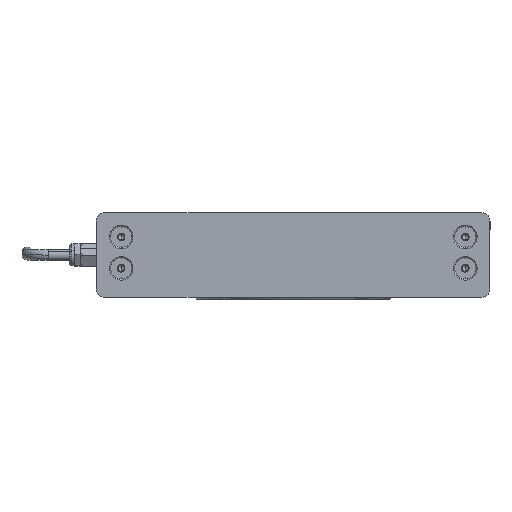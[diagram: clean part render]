
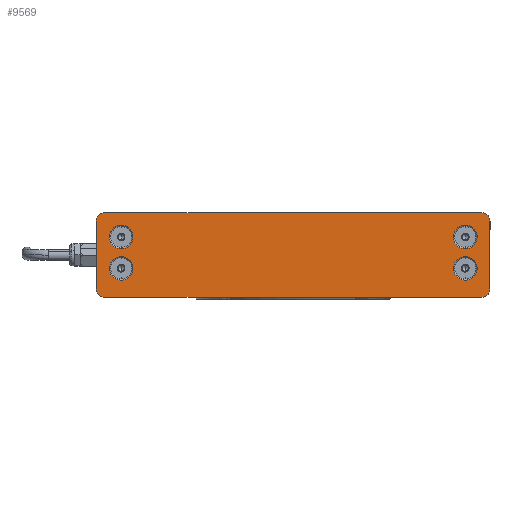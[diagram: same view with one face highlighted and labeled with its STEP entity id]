
A CAD part, left-side view. The second image highlights one B-rep face of the part: STEP entity #9569.
In plain terms, the highlighted planar face has unit normal (-1, 0, 0) as drawn and (0, 0, -1) by its records, which use the part's own axes.
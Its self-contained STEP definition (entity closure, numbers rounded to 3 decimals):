
#131 = EDGE_CURVE ( 'NONE', #16238, #3221, #17956, .T. ) ;
#266 = LINE ( 'NONE', #24265, #7904 ) ;
#683 = VERTEX_POINT ( 'NONE', #25800 ) ;
#707 = DIRECTION ( 'NONE',  ( 0., 0., -1. ) ) ;
#834 = CARTESIAN_POINT ( 'NONE',  ( 75.7, 8.5, 0. ) ) ;
#873 = CIRCLE ( 'NONE', #23498, 4. ) ;
#1232 = AXIS2_PLACEMENT_3D ( 'NONE', #11190, #19191, #1246 ) ;
#1246 = DIRECTION ( 'NONE',  ( -1., 0., 0. ) ) ;
#1478 = EDGE_CURVE ( 'NONE', #10969, #8473, #266, .T. ) ;
#1742 = LINE ( 'NONE', #23887, #20136 ) ;
#1770 = CARTESIAN_POINT ( 'NONE',  ( -81.3, -6.3, 0. ) ) ;
#1856 = CARTESIAN_POINT ( 'NONE',  ( 81.3, -6.3, 0. ) ) ;
#1952 = DIRECTION ( 'NONE',  ( -1., 0., 0. ) ) ;
#2318 = DIRECTION ( 'NONE',  ( -1., 0., 0. ) ) ;
#2404 = FACE_BOUND ( 'NONE', #24069, .T. ) ;
#2476 = DIRECTION ( 'NONE',  ( 0., 0., -1. ) ) ;
#2893 = DIRECTION ( 'NONE',  ( -1., 0., 0. ) ) ;
#3221 = VERTEX_POINT ( 'NONE', #22098 ) ;
#3506 = EDGE_CURVE ( 'NONE', #22330, #12350, #873, .T. ) ;
#3580 = DIRECTION ( 'NONE',  ( 0., 0., -1. ) ) ;
#3744 = CARTESIAN_POINT ( 'NONE',  ( -86.9, 8.5, 0. ) ) ;
#3844 = EDGE_CURVE ( 'NONE', #3221, #16238, #23512, .T. ) ;
#4114 = FACE_OUTER_BOUND ( 'NONE', #18024, .T. ) ;
#4115 = CARTESIAN_POINT ( 'NONE',  ( 89., -20., 0. ) ) ;
#4144 = CIRCLE ( 'NONE', #25063, 5.6 ) ;
#4372 = FACE_BOUND ( 'NONE', #19691, .T. ) ;
#4517 = DIRECTION ( 'NONE',  ( -1., 0., 0. ) ) ;
#4620 = EDGE_CURVE ( 'NONE', #14165, #9355, #7190, .T. ) ;
#4677 = CARTESIAN_POINT ( 'NONE',  ( -89., -20., 0. ) ) ;
#4750 = ORIENTED_EDGE ( 'NONE', *, *, #17627, .F. ) ;
#4803 = LINE ( 'NONE', #4677, #25772 ) ;
#5032 = DIRECTION ( 'NONE',  ( 0., 0., -1. ) ) ;
#5067 = ORIENTED_EDGE ( 'NONE', *, *, #15386, .F. ) ;
#5088 = AXIS2_PLACEMENT_3D ( 'NONE', #16316, #24211, #2318 ) ;
#5155 = ORIENTED_EDGE ( 'NONE', *, *, #4620, .F. ) ;
#5233 = ORIENTED_EDGE ( 'NONE', *, *, #14295, .F. ) ;
#5361 = ORIENTED_EDGE ( 'NONE', *, *, #131, .F. ) ;
#5404 = DIRECTION ( 'NONE',  ( -1., 0., 0. ) ) ;
#5416 = VERTEX_POINT ( 'NONE', #4115 ) ;
#5622 = ORIENTED_EDGE ( 'NONE', *, *, #3506, .F. ) ;
#5727 = CARTESIAN_POINT ( 'NONE',  ( 89., 20., 0. ) ) ;
#6259 = VERTEX_POINT ( 'NONE', #21439 ) ;
#6446 = AXIS2_PLACEMENT_3D ( 'NONE', #17562, #23604, #20140 ) ;
#6609 = CARTESIAN_POINT ( 'NONE',  ( -75.7, -6.3, 0. ) ) ;
#6666 = AXIS2_PLACEMENT_3D ( 'NONE', #10012, #14312, #16404 ) ;
#6859 = CIRCLE ( 'NONE', #6446, 4. ) ;
#6993 = CIRCLE ( 'NONE', #21660, 4. ) ;
#7190 = CIRCLE ( 'NONE', #10943, 5.6 ) ;
#7346 = DIRECTION ( 'NONE',  ( 0., 0., 1. ) ) ;
#7616 = AXIS2_PLACEMENT_3D ( 'NONE', #20822, #2476, #18186 ) ;
#7904 = VECTOR ( 'NONE', #12868, 1000. ) ;
#8147 = CARTESIAN_POINT ( 'NONE',  ( -86.9, -6.3, 0. ) ) ;
#8473 = VERTEX_POINT ( 'NONE', #9465 ) ;
#8668 = VERTEX_POINT ( 'NONE', #18735 ) ;
#8690 = DIRECTION ( 'NONE',  ( -1., 0., 0. ) ) ;
#8926 = CARTESIAN_POINT ( 'NONE',  ( -89., 16., 0. ) ) ;
#9355 = VERTEX_POINT ( 'NONE', #3744 ) ;
#9368 = CARTESIAN_POINT ( 'NONE',  ( -93., -16., 0. ) ) ;
#9465 = CARTESIAN_POINT ( 'NONE',  ( 93., 16., 0. ) ) ;
#9569 = ADVANCED_FACE ( 'NONE', ( #14441, #2404, #4372, #15886, #4114 ), #10390, .T. ) ;
#10012 = CARTESIAN_POINT ( 'NONE',  ( 89., 16., 0. ) ) ;
#10390 = PLANE ( 'NONE',  #6666 ) ;
#10936 = CARTESIAN_POINT ( 'NONE',  ( -93., -16., 0. ) ) ;
#10943 = AXIS2_PLACEMENT_3D ( 'NONE', #24350, #14119, #1952 ) ;
#10969 = VERTEX_POINT ( 'NONE', #23717 ) ;
#11020 = CIRCLE ( 'NONE', #17288, 5.6 ) ;
#11190 = CARTESIAN_POINT ( 'NONE',  ( 81.3, 8.5, 0. ) ) ;
#11460 = LINE ( 'NONE', #9368, #18754 ) ;
#12165 = EDGE_CURVE ( 'NONE', #8668, #683, #6993, .T. ) ;
#12350 = VERTEX_POINT ( 'NONE', #20532 ) ;
#12386 = ORIENTED_EDGE ( 'NONE', *, *, #12165, .F. ) ;
#12623 = DIRECTION ( 'NONE',  ( 1., 0., 0. ) ) ;
#12643 = VERTEX_POINT ( 'NONE', #6609 ) ;
#12686 = EDGE_CURVE ( 'NONE', #5416, #10969, #23349, .T. ) ;
#12794 = CARTESIAN_POINT ( 'NONE',  ( 86.9, -6.3, 0. ) ) ;
#12866 = CARTESIAN_POINT ( 'NONE',  ( -81.3, 8.5, 0. ) ) ;
#12868 = DIRECTION ( 'NONE',  ( 0., 1., 0. ) ) ;
#12892 = VERTEX_POINT ( 'NONE', #12794 ) ;
#13154 = AXIS2_PLACEMENT_3D ( 'NONE', #12866, #5032, #8690 ) ;
#13413 = ORIENTED_EDGE ( 'NONE', *, *, #12686, .F. ) ;
#13437 = DIRECTION ( 'NONE',  ( -1., 0., 0. ) ) ;
#13884 = ORIENTED_EDGE ( 'NONE', *, *, #19077, .F. ) ;
#14119 = DIRECTION ( 'NONE',  ( 0., 0., -1. ) ) ;
#14165 = VERTEX_POINT ( 'NONE', #19189 ) ;
#14295 = EDGE_CURVE ( 'NONE', #683, #22330, #11460, .T. ) ;
#14312 = DIRECTION ( 'NONE',  ( 0., 0., -1. ) ) ;
#14441 = FACE_BOUND ( 'NONE', #19475, .T. ) ;
#14828 = CIRCLE ( 'NONE', #13154, 5.6 ) ;
#15114 = CIRCLE ( 'NONE', #7616, 5.6 ) ;
#15138 = AXIS2_PLACEMENT_3D ( 'NONE', #1770, #15896, #13437 ) ;
#15386 = EDGE_CURVE ( 'NONE', #6259, #12892, #4144, .T. ) ;
#15563 = CIRCLE ( 'NONE', #15138, 5.6 ) ;
#15652 = ORIENTED_EDGE ( 'NONE', *, *, #16992, .F. ) ;
#15886 = FACE_BOUND ( 'NONE', #21390, .T. ) ;
#15896 = DIRECTION ( 'NONE',  ( 0., 0., -1. ) ) ;
#16238 = VERTEX_POINT ( 'NONE', #834 ) ;
#16316 = CARTESIAN_POINT ( 'NONE',  ( 81.3, 8.5, 0. ) ) ;
#16404 = DIRECTION ( 'NONE',  ( -1., 0., 0. ) ) ;
#16512 = EDGE_CURVE ( 'NONE', #25021, #8668, #1742, .T. ) ;
#16538 = DIRECTION ( 'NONE',  ( 0., 0., 1. ) ) ;
#16541 = CARTESIAN_POINT ( 'NONE',  ( 81.3, -6.3, 0. ) ) ;
#16769 = ORIENTED_EDGE ( 'NONE', *, *, #18596, .F. ) ;
#16992 = EDGE_CURVE ( 'NONE', #12643, #25540, #15114, .T. ) ;
#17288 = AXIS2_PLACEMENT_3D ( 'NONE', #16541, #707, #4517 ) ;
#17562 = CARTESIAN_POINT ( 'NONE',  ( 89., 16., 0. ) ) ;
#17627 = EDGE_CURVE ( 'NONE', #25540, #12643, #15563, .T. ) ;
#17956 = CIRCLE ( 'NONE', #1232, 5.6 ) ;
#18024 = EDGE_LOOP ( 'NONE', ( #13884, #19462, #13413, #23055, #5622, #5233, #12386, #23622 ) ) ;
#18186 = DIRECTION ( 'NONE',  ( -1., 0., 0. ) ) ;
#18251 = CARTESIAN_POINT ( 'NONE',  ( 89., -16., 0. ) ) ;
#18596 = EDGE_CURVE ( 'NONE', #12892, #6259, #11020, .T. ) ;
#18732 = AXIS2_PLACEMENT_3D ( 'NONE', #18251, #16538, #12623 ) ;
#18735 = CARTESIAN_POINT ( 'NONE',  ( -89., 20., 0. ) ) ;
#18750 = DIRECTION ( 'NONE',  ( 0., 0., 1. ) ) ;
#18754 = VECTOR ( 'NONE', #25347, 1000. ) ;
#19077 = EDGE_CURVE ( 'NONE', #8473, #25021, #6859, .T. ) ;
#19189 = CARTESIAN_POINT ( 'NONE',  ( -75.7, 8.5, 0. ) ) ;
#19191 = DIRECTION ( 'NONE',  ( 0., 0., -1. ) ) ;
#19462 = ORIENTED_EDGE ( 'NONE', *, *, #1478, .F. ) ;
#19475 = EDGE_LOOP ( 'NONE', ( #5361, #20123 ) ) ;
#19691 = EDGE_LOOP ( 'NONE', ( #24560, #5155 ) ) ;
#19938 = DIRECTION ( 'NONE',  ( -1., 0., 0. ) ) ;
#20123 = ORIENTED_EDGE ( 'NONE', *, *, #3844, .F. ) ;
#20136 = VECTOR ( 'NONE', #19938, 1000. ) ;
#20140 = DIRECTION ( 'NONE',  ( -1., 0., 0. ) ) ;
#20532 = CARTESIAN_POINT ( 'NONE',  ( -89., -20., 0. ) ) ;
#20822 = CARTESIAN_POINT ( 'NONE',  ( -81.3, -6.3, 0. ) ) ;
#21390 = EDGE_LOOP ( 'NONE', ( #4750, #15652 ) ) ;
#21401 = DIRECTION ( 'NONE',  ( -1., 0., 0. ) ) ;
#21439 = CARTESIAN_POINT ( 'NONE',  ( 75.7, -6.3, 0. ) ) ;
#21660 = AXIS2_PLACEMENT_3D ( 'NONE', #8926, #18750, #2893 ) ;
#22098 = CARTESIAN_POINT ( 'NONE',  ( 86.9, 8.5, 0. ) ) ;
#22330 = VERTEX_POINT ( 'NONE', #10936 ) ;
#22636 = DIRECTION ( 'NONE',  ( 1., 0., 0. ) ) ;
#22672 = EDGE_CURVE ( 'NONE', #9355, #14165, #14828, .T. ) ;
#23055 = ORIENTED_EDGE ( 'NONE', *, *, #23856, .F. ) ;
#23349 = CIRCLE ( 'NONE', #18732, 4. ) ;
#23498 = AXIS2_PLACEMENT_3D ( 'NONE', #25171, #7346, #5404 ) ;
#23512 = CIRCLE ( 'NONE', #5088, 5.6 ) ;
#23604 = DIRECTION ( 'NONE',  ( 0., 0., 1. ) ) ;
#23622 = ORIENTED_EDGE ( 'NONE', *, *, #16512, .F. ) ;
#23717 = CARTESIAN_POINT ( 'NONE',  ( 93., -16., 0. ) ) ;
#23856 = EDGE_CURVE ( 'NONE', #12350, #5416, #4803, .T. ) ;
#23887 = CARTESIAN_POINT ( 'NONE',  ( -89., 20., 0. ) ) ;
#24069 = EDGE_LOOP ( 'NONE', ( #5067, #16769 ) ) ;
#24211 = DIRECTION ( 'NONE',  ( 0., 0., -1. ) ) ;
#24265 = CARTESIAN_POINT ( 'NONE',  ( 93., -16., 0. ) ) ;
#24350 = CARTESIAN_POINT ( 'NONE',  ( -81.3, 8.5, 0. ) ) ;
#24560 = ORIENTED_EDGE ( 'NONE', *, *, #22672, .F. ) ;
#25021 = VERTEX_POINT ( 'NONE', #5727 ) ;
#25063 = AXIS2_PLACEMENT_3D ( 'NONE', #1856, #3580, #21401 ) ;
#25171 = CARTESIAN_POINT ( 'NONE',  ( -89., -16., 0. ) ) ;
#25347 = DIRECTION ( 'NONE',  ( 0., -1., 0. ) ) ;
#25540 = VERTEX_POINT ( 'NONE', #8147 ) ;
#25772 = VECTOR ( 'NONE', #22636, 1000. ) ;
#25800 = CARTESIAN_POINT ( 'NONE',  ( -93., 16., 0. ) ) ;
